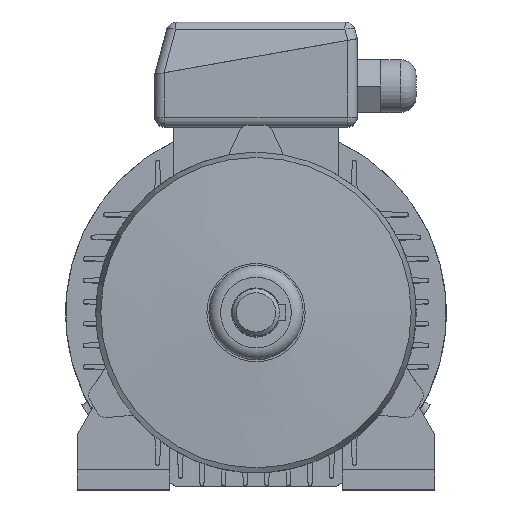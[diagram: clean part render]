
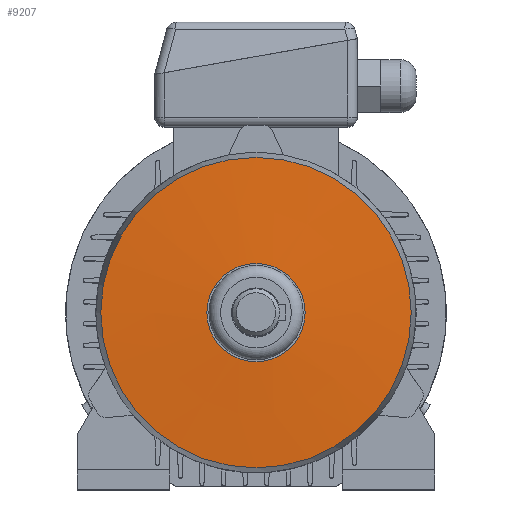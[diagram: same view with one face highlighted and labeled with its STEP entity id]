
A CAD part, top view. The second image highlights one B-rep face of the part: STEP entity #9207.
In plain terms, the highlighted conical face has half-angle 86.822 degrees and reference radius 25 mm.
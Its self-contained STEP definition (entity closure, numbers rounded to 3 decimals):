
#416=CONICAL_SURFACE('',#9740,25.,1.515);
#3302=ORIENTED_EDGE('',*,*,#5501,.F.);
#3303=ORIENTED_EDGE('',*,*,#5436,.T.);
#5436=EDGE_CURVE('',#6630,#6630,#7217,.T.);
#5501=EDGE_CURVE('',#6682,#6682,#7238,.T.);
#6630=VERTEX_POINT('',#18155);
#6682=VERTEX_POINT('',#18295);
#7217=CIRCLE('',#9697,25.);
#7238=CIRCLE('',#9741,79.031);
#7793=EDGE_LOOP('',(#3302));
#7794=EDGE_LOOP('',(#3303));
#8372=FACE_BOUND('',#7793,.T.);
#8373=FACE_BOUND('',#7794,.T.);
#9207=ADVANCED_FACE('',(#8372,#8373),#416,.T.);
#9697=AXIS2_PLACEMENT_3D('',#18154,#11024,#11025);
#9740=AXIS2_PLACEMENT_3D('',#18293,#11154,#11155);
#9741=AXIS2_PLACEMENT_3D('',#18294,#11156,#11157);
#11024=DIRECTION('',(0.,0.,-1.));
#11025=DIRECTION('',(-1.,0.,0.));
#11154=DIRECTION('',(0.,0.,-1.));
#11155=DIRECTION('',(-1.,0.,0.));
#11156=DIRECTION('',(0.,0.,-1.));
#11157=DIRECTION('',(-1.,0.,0.));
#18154=CARTESIAN_POINT('',(0.,0.,27.));
#18155=CARTESIAN_POINT('',(-25.,0.,27.));
#18293=CARTESIAN_POINT('',(0.,0.,27.));
#18294=CARTESIAN_POINT('',(0.,0.,24.));
#18295=CARTESIAN_POINT('',(-79.031,0.,24.));
